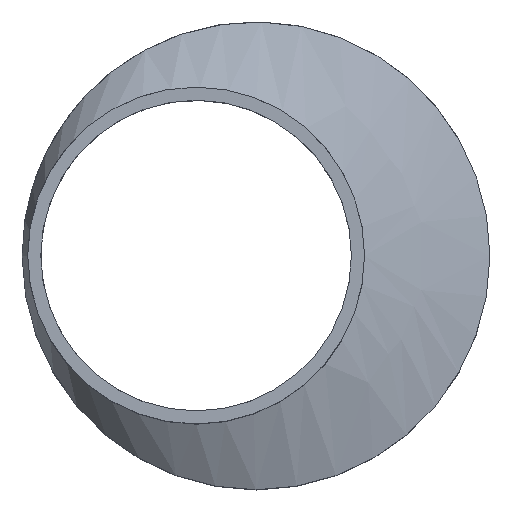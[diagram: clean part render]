
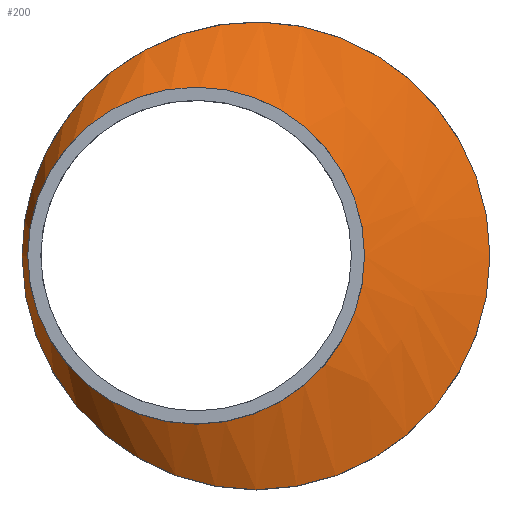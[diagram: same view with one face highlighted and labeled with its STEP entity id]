
A CAD part, top view. The second image highlights one B-rep face of the part: STEP entity #200.
In plain terms, the highlighted free-form (B-spline) face has degree [1, 2] with [2, 9] control points.
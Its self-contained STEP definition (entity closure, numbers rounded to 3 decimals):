
#15=B_SPLINE_CURVE_WITH_KNOTS($,1,(#381,#382),.UNSPECIFIED.,.F.,.F.,(2,
2),(-0.341,0.),.UNSPECIFIED.);
#17=(
BOUNDED_SURFACE()
B_SPLINE_SURFACE(1,2,((#359,#360,#361,#362,#363,#364,#365,#366,#367),(#368,
#369,#370,#371,#372,#373,#374,#375,#376)),.UNSPECIFIED.,.F.,.T.,.F.)
B_SPLINE_SURFACE_WITH_KNOTS((2,2),(3,2,2,2,3),(-1.966,0.684),
(-3.142,-1.571,0.,1.571,3.142),
 .UNSPECIFIED.)
GEOMETRIC_REPRESENTATION_ITEM()
RATIONAL_B_SPLINE_SURFACE(((1.,0.707,1.,0.707,1.,
0.707,1.,0.707,1.),(1.,0.707,1.,0.707,
1.,0.707,1.,0.707,1.)))
REPRESENTATION_ITEM($)
SURFACE()
);
#47=FACE_OUTER_BOUND($,#67,.T.);
#67=EDGE_LOOP($,(#157,#158,#159,#160,#161,#162));
#83=CIRCLE($,#221,62.5);
#84=CIRCLE($,#222,62.5);
#91=CIRCLE($,#231,45.);
#92=CIRCLE($,#232,45.);
#101=VERTEX_POINT($,#321);
#102=VERTEX_POINT($,#322);
#109=VERTEX_POINT($,#377);
#110=VERTEX_POINT($,#378);
#119=EDGE_CURVE($,#101,#102,#83,.T.);
#120=EDGE_CURVE($,#102,#101,#84,.T.);
#128=EDGE_CURVE($,#109,#110,#91,.T.);
#129=EDGE_CURVE($,#110,#109,#92,.T.);
#130=EDGE_CURVE($,#110,#102,#15,.T.);
#157=ORIENTED_EDGE($,*,*,#128,.F.);
#158=ORIENTED_EDGE($,*,*,#129,.F.);
#159=ORIENTED_EDGE($,*,*,#130,.T.);
#160=ORIENTED_EDGE($,*,*,#119,.F.);
#161=ORIENTED_EDGE($,*,*,#120,.F.);
#162=ORIENTED_EDGE($,*,*,#130,.F.);
#200=ADVANCED_FACE($,(#47),#17,.F.);
#221=AXIS2_PLACEMENT_3D($,#323,#266,#267);
#222=AXIS2_PLACEMENT_3D($,#324,#268,#269);
#231=AXIS2_PLACEMENT_3D($,#379,#286,#287);
#232=AXIS2_PLACEMENT_3D($,#380,#288,#289);
#266=DIRECTION('center_axis',(0.,0.,-1.));
#267=DIRECTION('ref_axis',(-1.,0.,0.));
#268=DIRECTION('center_axis',(0.,0.,-1.));
#269=DIRECTION('ref_axis',(-1.,0.,0.));
#286=DIRECTION('center_axis',(0.,0.,1.));
#287=DIRECTION('ref_axis',(-1.,0.,0.));
#288=DIRECTION('center_axis',(0.,0.,1.));
#289=DIRECTION('ref_axis',(-1.,0.,0.));
#321=CARTESIAN_POINT('',(62.5,0.,37.));
#322=CARTESIAN_POINT('',(-38.606,49.151,37.));
#323=CARTESIAN_POINT('Origin',(0.,0.,37.));
#324=CARTESIAN_POINT('Origin',(0.,0.,37.));
#359=CARTESIAN_POINT('Ctrl Pts',(-8.656,128.566,-9.164));
#360=CARTESIAN_POINT('Ctrl Pts',(-79.812,128.566,-55.329));
#361=CARTESIAN_POINT('Ctrl Pts',(-79.812,0.,
-55.329));
#362=CARTESIAN_POINT('Ctrl Pts',(-79.812,-128.566,-55.329));
#363=CARTESIAN_POINT('Ctrl Pts',(-8.656,-128.566,-9.164));
#364=CARTESIAN_POINT('Ctrl Pts',(62.5,-128.566,37.));
#365=CARTESIAN_POINT('Ctrl Pts',(62.5,0.,37.));
#366=CARTESIAN_POINT('Ctrl Pts',(62.5,128.566,37.));
#367=CARTESIAN_POINT('Ctrl Pts',(-8.656,128.566,-9.164));
#368=CARTESIAN_POINT('Ctrl Pts',(-49.029,21.514,53.066));
#369=CARTESIAN_POINT('Ctrl Pts',(-60.936,21.514,45.341));
#370=CARTESIAN_POINT('Ctrl Pts',(-60.936,0.,45.341));
#371=CARTESIAN_POINT('Ctrl Pts',(-60.936,-21.514,45.341));
#372=CARTESIAN_POINT('Ctrl Pts',(-49.029,-21.514,53.066));
#373=CARTESIAN_POINT('Ctrl Pts',(-37.123,-21.514,60.79));
#374=CARTESIAN_POINT('Ctrl Pts',(-37.123,0.,60.79));
#375=CARTESIAN_POINT('Ctrl Pts',(-37.123,21.514,60.79));
#376=CARTESIAN_POINT('Ctrl Pts',(-49.029,21.514,53.066));
#377=CARTESIAN_POINT('',(29.,0.,45.));
#378=CARTESIAN_POINT('',(-43.797,35.389,45.));
#379=CARTESIAN_POINT('Origin',(-16.,0.,45.));
#380=CARTESIAN_POINT('Origin',(-16.,0.,45.));
#381=CARTESIAN_POINT('Ctrl Pts',(-43.797,35.389,45.));
#382=CARTESIAN_POINT('Ctrl Pts',(-38.606,49.151,37.));
